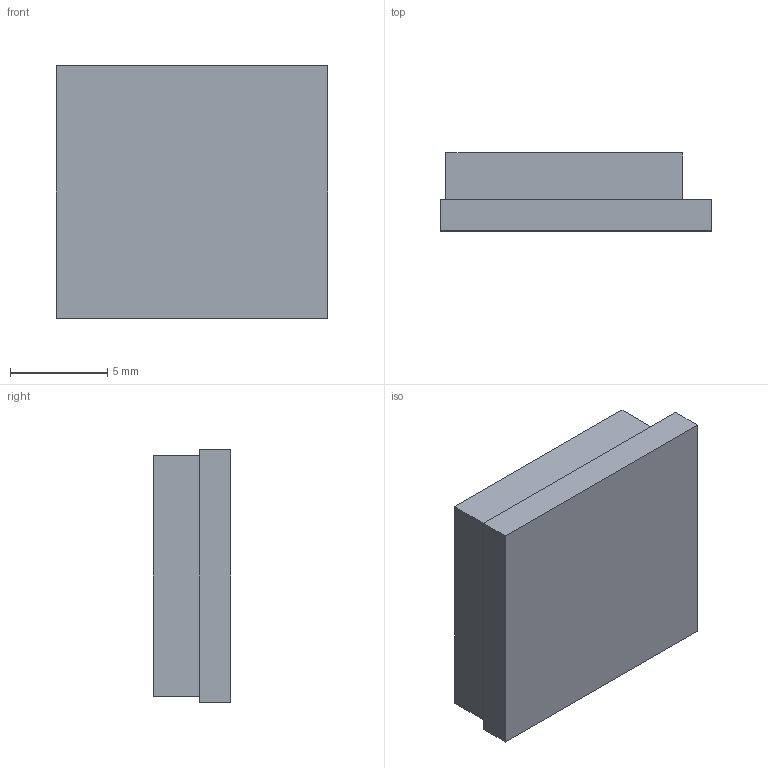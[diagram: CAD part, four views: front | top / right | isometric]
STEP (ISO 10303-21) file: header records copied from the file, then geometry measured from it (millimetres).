
FILE_DESCRIPTION (( 'STEP AP214' ), '1' );
FILE_NAME ('WT61 5-A-3 Compass.STEP', '2026-02-22T20:07:32', ( '' ), ( '' ), 'SwSTEP 2.0', 'SolidWorks 2024', '' );
FILE_SCHEMA (( 'AUTOMOTIVE_DESIGN' ));
Length unit declared in the file: millimetre
Products named in the file (1): WT61 5-A-3 Compass
Bounding box: 14 x 4 x 13 mm (x, y, z)
Volume: 654.3 mm3; surface area: 568.5 mm2
Topology: 1 solids, 1 shells, 11 faces, 24 edges, 16 vertices
Faces by surface type: plane 11
Entity records: 321 total; most frequent: CARTESIAN_POINT 52, DIRECTION 48, ORIENTED_EDGE 48, VECTOR 24, LINE 24, EDGE_CURVE 24, VERTEX_POINT 16, EDGE_LOOP 12
